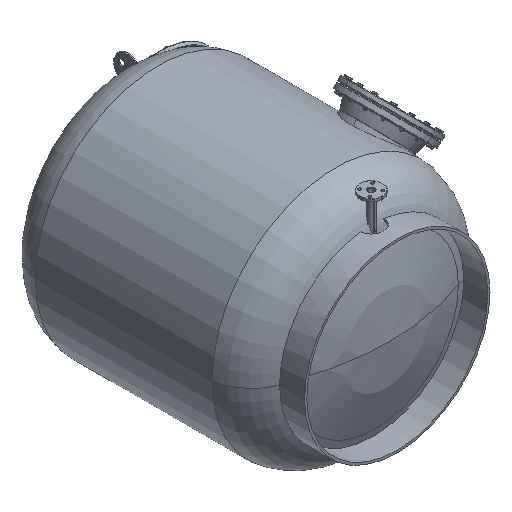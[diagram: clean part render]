
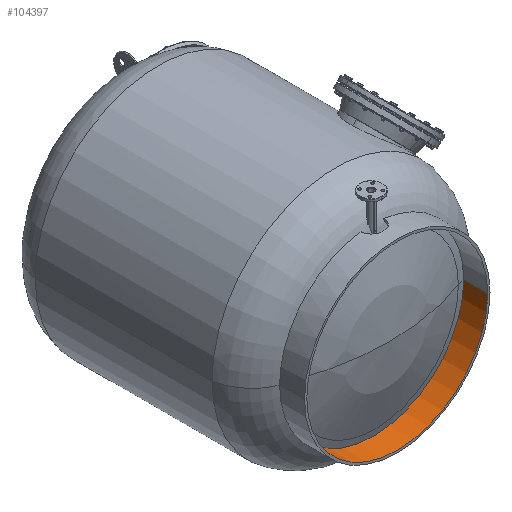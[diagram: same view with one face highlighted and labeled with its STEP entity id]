
A CAD part, isometric view. The second image highlights one B-rep face of the part: STEP entity #104397.
In plain terms, the highlighted cylindrical face has radius 600 mm (diameter 1200 mm), a partial arc.
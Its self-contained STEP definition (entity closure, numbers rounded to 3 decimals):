
#1701 = LINE ( 'NONE', #78219, #75285 ) ;
#5405 = DIRECTION ( 'NONE',  ( 1., 0., 0. ) ) ;
#9693 = DIRECTION ( 'NONE',  ( 0., 1., 0. ) ) ;
#18188 = DIRECTION ( 'NONE',  ( 0., -1., 0. ) ) ;
#18654 = EDGE_CURVE ( 'NONE', #104088, #112419, #69597, .T. ) ;
#23162 = EDGE_LOOP ( 'NONE', ( #89192, #50784, #108668, #68224 ) ) ;
#25396 = CARTESIAN_POINT ( 'NONE',  ( 615., 0., -615.057 ) ) ;
#34246 = CARTESIAN_POINT ( 'NONE',  ( 615., 165.5, -615.057 ) ) ;
#35065 = CYLINDRICAL_SURFACE ( 'NONE', #83879, 600. ) ;
#35114 = CARTESIAN_POINT ( 'NONE',  ( 15., 165.5, -615.057 ) ) ;
#43325 = CARTESIAN_POINT ( 'NONE',  ( 15., 165.5, -615.057 ) ) ;
#44409 = LINE ( 'NONE', #43325, #86078 ) ;
#50784 = ORIENTED_EDGE ( 'NONE', *, *, #66068, .T. ) ;
#51469 = CARTESIAN_POINT ( 'NONE',  ( 15., 6.2, -615.057 ) ) ;
#52901 = CARTESIAN_POINT ( 'NONE',  ( 1215., 6.2, -615.057 ) ) ;
#53047 = EDGE_CURVE ( 'NONE', #86976, #58265, #84018, .T. ) ;
#58265 = VERTEX_POINT ( 'NONE', #35114 ) ;
#62187 = DIRECTION ( 'NONE',  ( 1., 0., 0. ) ) ;
#64142 = AXIS2_PLACEMENT_3D ( 'NONE', #83549, #90375, #5405 ) ;
#66068 = EDGE_CURVE ( 'NONE', #58265, #112419, #44409, .T. ) ;
#66641 = EDGE_CURVE ( 'NONE', #86976, #104088, #1701, .T. ) ;
#67081 = CARTESIAN_POINT ( 'NONE',  ( 1215., 165.5, -615.057 ) ) ;
#67663 = AXIS2_PLACEMENT_3D ( 'NONE', #34246, #9693, #62187 ) ;
#68224 = ORIENTED_EDGE ( 'NONE', *, *, #66641, .F. ) ;
#68856 = DIRECTION ( 'NONE',  ( 0., -1., 0. ) ) ;
#69597 = CIRCLE ( 'NONE', #64142, 600. ) ;
#75285 = VECTOR ( 'NONE', #18188, 1000. ) ;
#78219 = CARTESIAN_POINT ( 'NONE',  ( 1215., 165.5, -615.057 ) ) ;
#83549 = CARTESIAN_POINT ( 'NONE',  ( 615., 6.2, -615.057 ) ) ;
#83879 = AXIS2_PLACEMENT_3D ( 'NONE', #25396, #68856, #85375 ) ;
#84018 = CIRCLE ( 'NONE', #67663, 600. ) ;
#85375 = DIRECTION ( 'NONE',  ( 1., 0., 0. ) ) ;
#86078 = VECTOR ( 'NONE', #112321, 1000. ) ;
#86976 = VERTEX_POINT ( 'NONE', #67081 ) ;
#89192 = ORIENTED_EDGE ( 'NONE', *, *, #53047, .T. ) ;
#90375 = DIRECTION ( 'NONE',  ( 0., 1., 0. ) ) ;
#95575 = FACE_OUTER_BOUND ( 'NONE', #23162, .T. ) ;
#104088 = VERTEX_POINT ( 'NONE', #52901 ) ;
#104397 = ADVANCED_FACE ( 'NONE', ( #95575 ), #35065, .F. ) ;
#108668 = ORIENTED_EDGE ( 'NONE', *, *, #18654, .F. ) ;
#112321 = DIRECTION ( 'NONE',  ( 0., -1., 0. ) ) ;
#112419 = VERTEX_POINT ( 'NONE', #51469 ) ;
